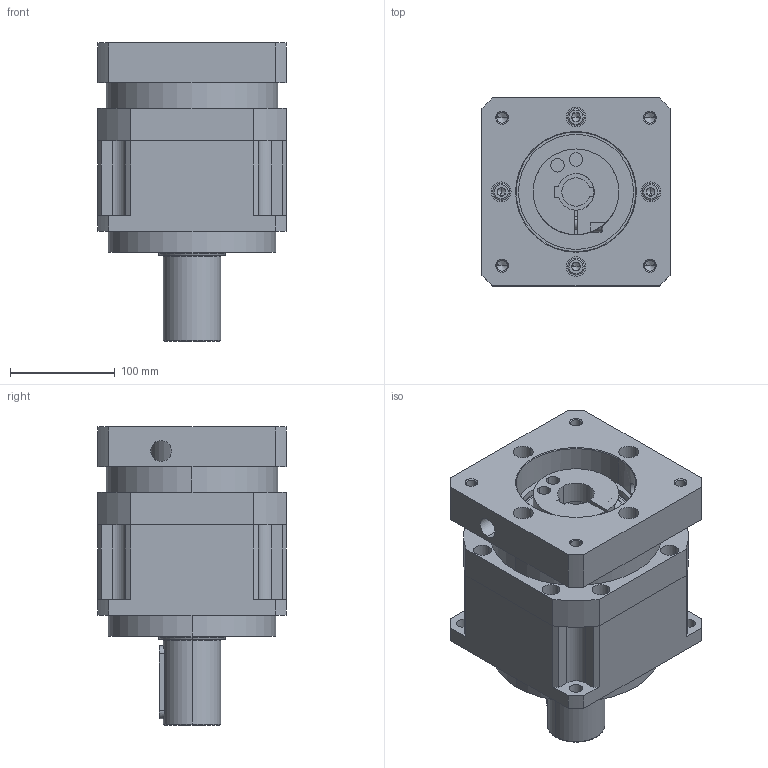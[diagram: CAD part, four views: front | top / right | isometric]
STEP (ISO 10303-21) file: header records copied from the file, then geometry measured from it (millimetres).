
FILE_DESCRIPTION (( 'STEP AP214' ), '1' );
FILE_NAME ('XAB180-L1-[ ]-P2 35J10-79-114.3-200-M12 bzsc55.STEP', '2024-05-30T00:59:40', ( '' ), ( '' ), 'SwSTEP 2.0', 'SolidWorks 2021', '' );
FILE_SCHEMA (( 'AUTOMOTIVE_DESIGN' ));
Length unit declared in the file: millimetre
Products named in the file (1): XAB180-L1-[  ]-P2 35J10-79-114.3-200-M12 bzsc55
Bounding box: 180 x 180 x 285 mm (x, y, z)
Volume: 5078801.2 mm3; surface area: 464573.2 mm2
Topology: 10 solids, 10 shells, 1299 faces, 3431 edges, 2246 vertices
Faces by surface type: plane 703, bspline 306, cylinder 224, cone 52, torus 14
Entity records: 54975 total; most frequent: CARTESIAN_POINT 23750, ORIENTED_EDGE 6806, DIRECTION 5313, EDGE_CURVE 3403, VERTEX_POINT 2246, LINE 2225, VECTOR 2225, AXIS2_PLACEMENT_3D 1544
